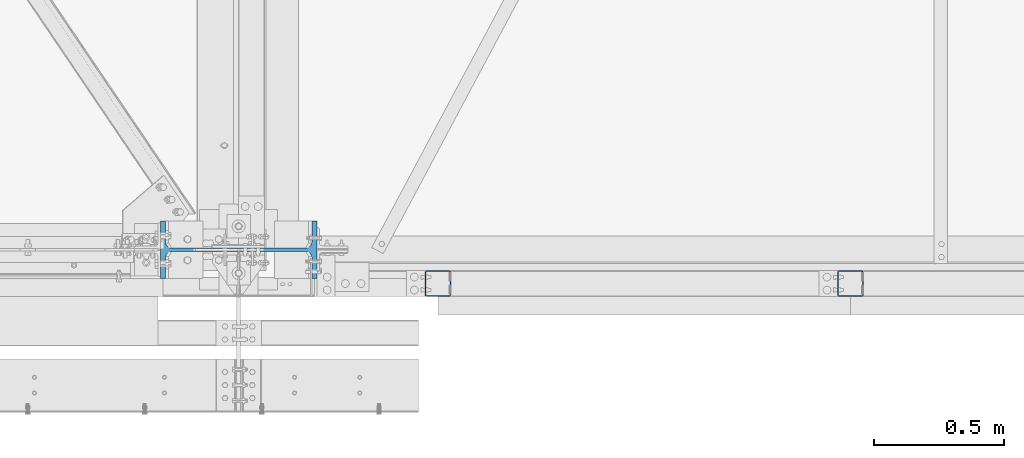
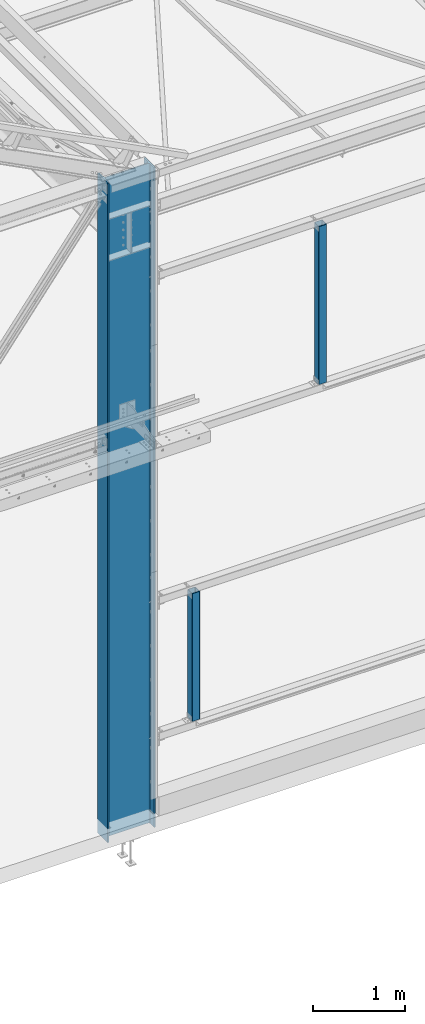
# One storey, part 10 of 362: 3 columns, 3 elements without a shape of their own.
"""IFC2X3 building model written with IfcOpenShell, lengths in millimetres."""

from ifc_helpers import new_model, si_unit, frame, origin_with_axes, origin_2d_with_axis, place, context, subcontext, project, spatial, hollow_rectangle, i_section, extrude, material, type_object, element, aggregate, save


model = new_model("IFC2X3")

# Units and contexts
model_context = context("Model", 3, precision=1e-05, world=origin_with_axes())
body_context = subcontext(model_context, "Body", "Model", "MODEL_VIEW")
ifc_project = project(units=[si_unit("LENGTHUNIT", "METRE", prefix="MILLI"), si_unit("AREAUNIT", "SQUARE_METRE"), si_unit("VOLUMEUNIT", "CUBIC_METRE"), si_unit("MASSUNIT", "GRAM", prefix="KILO"), si_unit("TIMEUNIT", "SECOND"), si_unit("PLANEANGLEUNIT", "RADIAN"), si_unit("SOLIDANGLEUNIT", "STERADIAN"), si_unit("THERMODYNAMICTEMPERATUREUNIT", "DEGREE_CELSIUS"), si_unit("LUMINOUSINTENSITYUNIT", "LUMEN")], contexts=[model_context])

# Site, building, storey
site_placement = place(None, origin_with_axes())
site = spatial("IfcSite", under=ifc_project, at=site_placement, Name="Undefined", CompositionType="ELEMENT")
building_placement = place(site_placement, origin_with_axes())
building = spatial("IfcBuilding", under=site, at=building_placement, Name="Undefined", CompositionType="ELEMENT")
storey_placement = place(building_placement, origin_with_axes())
storey = spatial("IfcBuildingStorey", under=building, at=storey_placement, Name="Undefined", CompositionType="ELEMENT", Elevation=0.0)

# Assembly, column
assembly_1_placement = place(storey_placement, origin_with_axes())
assembly_1 = element("IfcElementAssembly", 1, at=assembly_1_placement, inside=storey, Name="MONTANT", AssemblyPlace="NOTDEFINED", PredefinedType="NOTDEFINED")
ifc_material_1 = material(Name="Undefined/S235-E24")
column_type_1 = type_object("IfcColumnType", Name="TUBE-C-100*100*4", PredefinedType="NOTDEFINED")
column_1_placement = place(assembly_1_placement, frame((31230.000000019, -129.999768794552, 5004.99999999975), z_axis=(0.0, 0.0, 1.0), x_axis=(0.0, 1.0, 0.0)))
column_1 = element("IfcColumn", 2, at=column_1_placement, type_object=column_type_1, material=ifc_material_1, Name="MONTANT", ObjectType="TUBE-C-100*100*4", context=body_context, shape_type="SweptSolid", body=[
    extrude(hollow_rectangle(XDim=100.0, YDim=100.0, WallThickness=4.0, InnerFilletRadius=4.0, OuterFilletRadius=8.0, at=origin_2d_with_axis()), frame((0.0, 0.0, 2090.0), z_axis=(0.0, 0.0, -1.0), x_axis=(0.0, 1.0, 0.0)), (0.0, 0.0, 1.0), 2090.0),
])
aggregate(assembly_1, [column_1])

assembly_2_placement = place(storey_placement, origin_with_axes())
assembly_2 = element("IfcElementAssembly", 3, at=assembly_2_placement, inside=storey, Name="MONTANT", AssemblyPlace="NOTDEFINED", PredefinedType="NOTDEFINED")
column_2_placement = place(assembly_2_placement, frame((29645.000000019, -129.999780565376, 1104.9999999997), z_axis=(0.0, 0.0, 1.0), x_axis=(0.0, 1.0, 0.0)))
column_2 = element("IfcColumn", 4, at=column_2_placement, type_object=column_type_1, material=ifc_material_1, Name="MONTANT", ObjectType="TUBE-C-100*100*4", context=body_context, shape_type="SweptSolid", body=[
    extrude(hollow_rectangle(XDim=100.0, YDim=100.0, WallThickness=4.0, InnerFilletRadius=4.0, OuterFilletRadius=8.0, at=origin_2d_with_axis()), frame((0.0, 0.0, 1690.0), z_axis=(0.0, 0.0, -1.0), x_axis=(0.0, 1.0, 0.0)), (0.0, 0.0, 1.0), 1690.0),
])
aggregate(assembly_2, [column_2])

assembly_3_placement = place(storey_placement, origin_with_axes())
assembly_3 = element("IfcElementAssembly", 5, at=assembly_3_placement, inside=storey, Name="POTEAU", AssemblyPlace="NOTDEFINED", PredefinedType="NOTDEFINED")
ifc_material_2 = material(Name="Undefined/S275-E28")
column_type_2 = type_object("IfcColumnType", Name="IPE600", PredefinedType="NOTDEFINED")
column_3_placement = place(assembly_3_placement, frame((28879.9971504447, 0.0, -185.0), z_axis=(0.0, 0.0, 1.0), x_axis=(-1.0, 0.0, 0.0)))
column_3 = element("IfcColumn", 6, at=column_3_placement, type_object=column_type_2, material=ifc_material_2, Name="POTEAU", ObjectType="IPE600", context=body_context, shape_type="SweptSolid", body=[
    extrude(i_section(OverallWidth=220.0, OverallDepth=600.0, WebThickness=12.0, FlangeThickness=19.0, FilletRadius=24.0, at=origin_2d_with_axis()), frame((-4.61897654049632e-19, 0.0, 8725.0000000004), z_axis=(0.0, 0.0, -1.0), x_axis=(0.0, 1.0, 0.0)), (0.0, 0.0, 1.0), 8725.0),
])
aggregate(assembly_3, [column_3])

save(model, "model.ifc")
